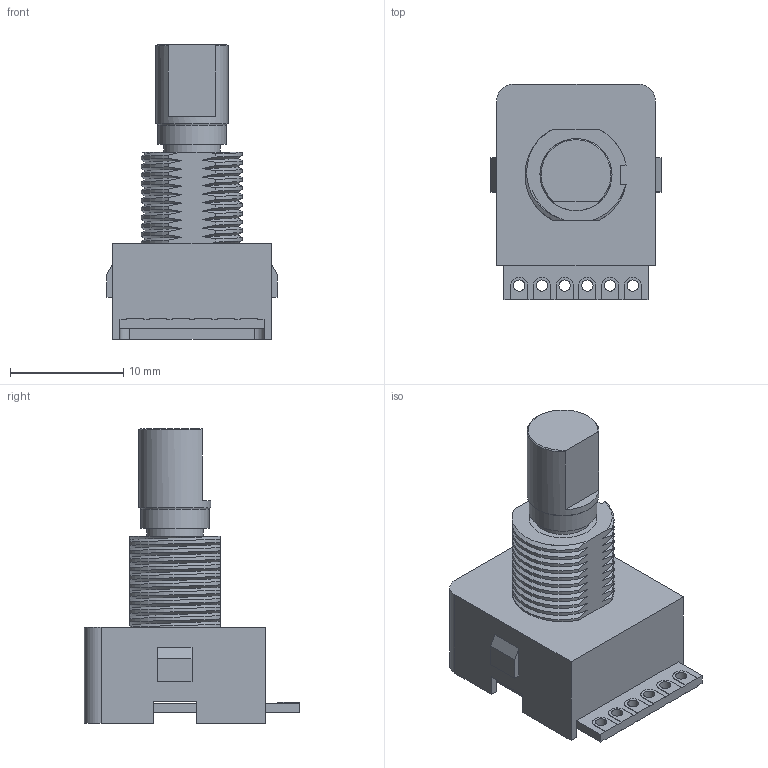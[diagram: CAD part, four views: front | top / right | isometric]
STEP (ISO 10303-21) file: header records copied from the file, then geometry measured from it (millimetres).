
FILE_DESCRIPTION (( 'STEP AP214' ), '1' );
FILE_NAME ('MRSC 6,35 Welle.STEP', '2019-03-12T12:32:59', ( '' ), ( '' ), 'SwSTEP 2.0', 'SolidWorks 2017', '' );
FILE_SCHEMA (( 'AUTOMOTIVE_DESIGN' ));
Length unit declared in the file: millimetre
Products named in the file (4): Gehäuse; Platine; Welle 6,35 mm; MRSC 6,35 Welle
Assembly tree (3 placements, depth 2):
  MRSC 6,35 Welle
    Gehäuse
    Welle 6,35 mm
    Platine
Bounding box: 15 x 19 x 26 mm (x, y, z)
Volume: 1552.6 mm3; surface area: 2687.1 mm2
Topology: 3 solids, 3 shells, 224 faces, 637 edges, 425 vertices
Faces by surface type: plane 91, bspline 66, cylinder 65, cone 1, torus 1
Full cylindrical faces by diameter (mm): 1 x6, 5 x1, 6 x3, 6.35 x1
Entity records: 29034 total; most frequent: CARTESIAN_POINT 23167, ORIENTED_EDGE 1244, DIRECTION 782, EDGE_CURVE 622, VERTEX_POINT 422, VECTOR 318, LINE 318, EDGE_LOOP 256
